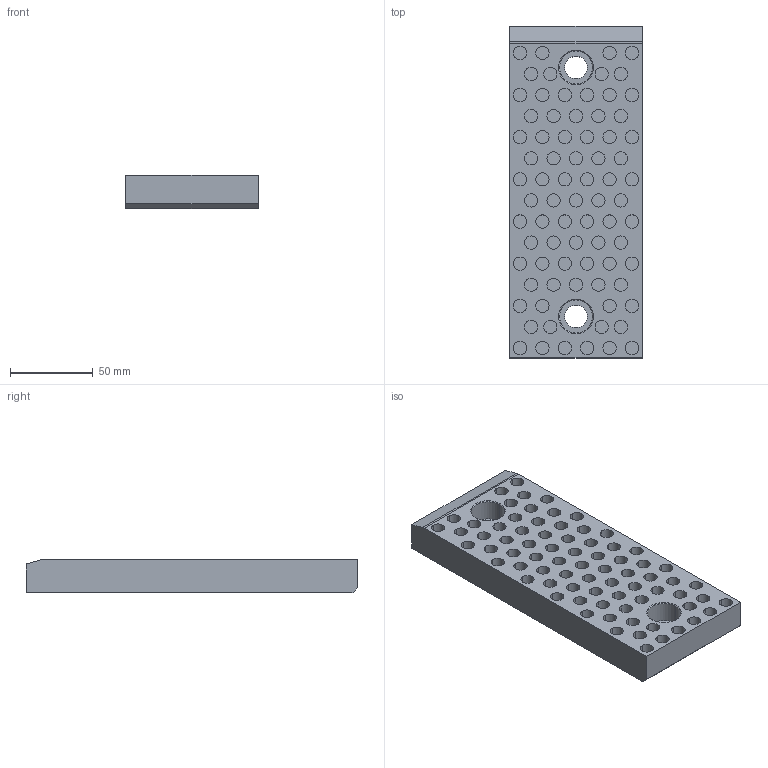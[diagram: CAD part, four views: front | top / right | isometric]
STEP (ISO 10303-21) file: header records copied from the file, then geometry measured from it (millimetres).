
FILE_DESCRIPTION (( 'STEP AP214' ), '1' );
FILE_NAME ('SW224-01-80x200.STEP', '2020-10-14T13:41:15', ( 'August' ), ( '' ), 'SwSTEP 2.0', 'SolidWorks 2018', '' );
FILE_SCHEMA (( 'AUTOMOTIVE_DESIGN' ));
Length unit declared in the file: millimetre
Products named in the file (1): SW224-01-80x200
Bounding box: 80 x 200 x 20 mm (x, y, z)
Volume: 270448.3 mm3; surface area: 63420.7 mm2
Topology: 1 solids, 1 shells, 254 faces, 515 edges, 342 vertices
Faces by surface type: cylinder 163, plane 87, cone 4
Entity records: 7112 total; most frequent: DIRECTION 1355, CARTESIAN_POINT 1112, ORIENTED_EDGE 1030, AXIS2_PLACEMENT_3D 585, EDGE_CURVE 515, VERTEX_POINT 342, EDGE_LOOP 337, CIRCLE 330
